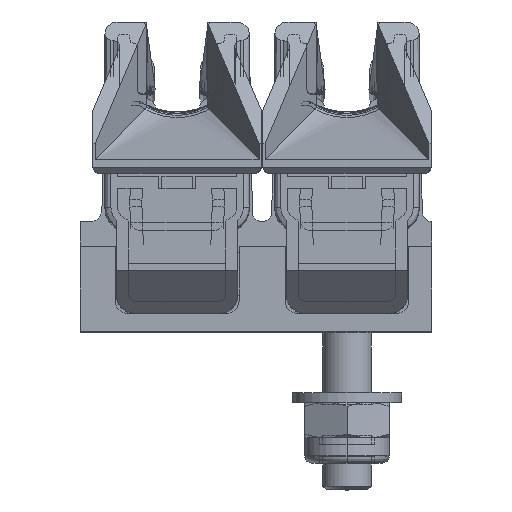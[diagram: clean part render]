
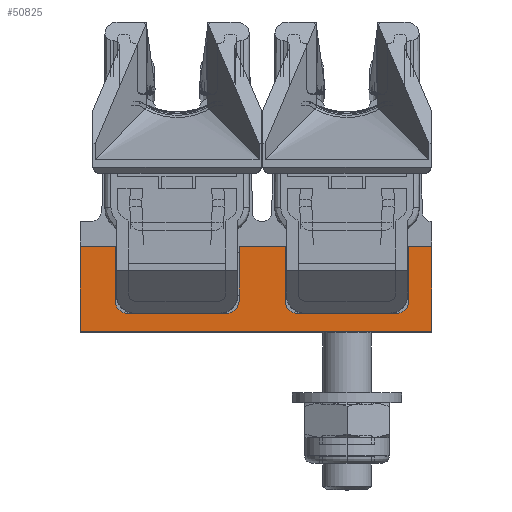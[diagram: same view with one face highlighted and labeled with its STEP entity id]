
A CAD part, top view. The second image highlights one B-rep face of the part: STEP entity #50825.
In plain terms, the highlighted planar face has unit normal (0, 0, 1).
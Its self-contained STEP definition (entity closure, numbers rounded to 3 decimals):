
#578 = EDGE_LOOP ( 'NONE', ( #29843, #29821, #29762, #29818, #29731, #29809, #29787, #29727, #29837, #29795, #29829, #29698, #29851, #29849, #29857, #29788 ) ) ;
#1311 = CARTESIAN_POINT ( 'NONE',  ( -12.1, -2.15, 2003.8 ) ) ;
#1312 = CARTESIAN_POINT ( 'NONE',  ( -11.1, -3.15, 2003.8 ) ) ;
#1313 = CARTESIAN_POINT ( 'NONE',  ( 14., 2.35, 2003.8 ) ) ;
#1317 = CARTESIAN_POINT ( 'NONE',  ( -1.9, -2.15, 2003.8 ) ) ;
#1340 = CARTESIAN_POINT ( 'NONE',  ( -2.9, -3.15, 2003.8 ) ) ;
#1341 = CARTESIAN_POINT ( 'NONE',  ( 12.1, 2.35, 2003.8 ) ) ;
#1342 = CARTESIAN_POINT ( 'NONE',  ( 12.1, -2.15, 2003.8 ) ) ;
#1343 = CARTESIAN_POINT ( 'NONE',  ( 11.1, -3.15, 2003.8 ) ) ;
#1344 = CARTESIAN_POINT ( 'NONE',  ( 2.9, -3.15, 2003.8 ) ) ;
#1345 = CARTESIAN_POINT ( 'NONE',  ( 1.9, -2.15, 2003.8 ) ) ;
#1346 = CARTESIAN_POINT ( 'NONE',  ( 1.9, 2.35, 2003.8 ) ) ;
#1347 = CARTESIAN_POINT ( 'NONE',  ( -1.9, 2.35, 2003.8 ) ) ;
#1348 = CARTESIAN_POINT ( 'NONE',  ( -12.1, 2.35, 2003.8 ) ) ;
#1349 = CARTESIAN_POINT ( 'NONE',  ( -15., 2.35, 2003.8 ) ) ;
#3438 = EDGE_CURVE ( 'NONE', #32444, #32445, #39092, .T. ) ;
#3440 = EDGE_CURVE ( 'NONE', #32443, #32420, #39098, .T. ) ;
#3446 = EDGE_CURVE ( 'NONE', #32416, #32444, #39105, .T. ) ;
#3459 = EDGE_CURVE ( 'NONE', #32448, #32449, #39127, .T. ) ;
#3473 = EDGE_CURVE ( 'NONE', #32414, #32415, #39152, .T. ) ;
#3499 = EDGE_CURVE ( 'NONE', #32446, #32447, #39195, .T. ) ;
#3501 = EDGE_CURVE ( 'NONE', #32449, #32450, #39198, .T. ) ;
#3559 = EDGE_CURVE ( 'NONE', #32451, #32414, #39288, .T. ) ;
#3567 = EDGE_CURVE ( 'NONE', #32452, #32451, #39300, .T. ) ;
#3583 = EDGE_CURVE ( 'NONE', #32415, #32443, #39329, .T. ) ;
#3590 = EDGE_CURVE ( 'NONE', #35469, #44333, #39338, .T. ) ;
#3608 = EDGE_CURVE ( 'NONE', #35469, #32452, #39372, .T. ) ;
#3614 = EDGE_CURVE ( 'NONE', #32416, #44333, #39378, .T. ) ;
#3632 = EDGE_CURVE ( 'NONE', #32447, #32448, #39410, .T. ) ;
#3642 = EDGE_CURVE ( 'NONE', #32445, #32446, #39427, .T. ) ;
#3653 = EDGE_CURVE ( 'NONE', #32420, #32450, #39448, .T. ) ;
#8197 = CARTESIAN_POINT ( 'NONE',  ( -15., -4.65, 2003.8 ) ) ;
#8219 = CARTESIAN_POINT ( 'NONE',  ( 14., -4.65, 2003.8 ) ) ;
#12977 = AXIS2_PLACEMENT_3D ( 'NONE', #19089, #19090, #19092 ) ;
#17027 = AXIS2_PLACEMENT_3D ( 'NONE', #40926, #40927, #40928 ) ;
#17037 = AXIS2_PLACEMENT_3D ( 'NONE', #40998, #40999, #41000 ) ;
#17087 = AXIS2_PLACEMENT_3D ( 'NONE', #41382, #41383, #41384 ) ;
#17090 = AXIS2_PLACEMENT_3D ( 'NONE', #41407, #41408, #41409 ) ;
#19078 = PLANE ( 'NONE',  #12977 ) ;
#19089 = CARTESIAN_POINT ( 'NONE',  ( 81.1, -2.15, 2003.8 ) ) ;
#19090 = DIRECTION ( 'NONE',  ( 0., 0., -1. ) ) ;
#19092 = DIRECTION ( 'NONE',  ( 1., 0., 0. ) ) ;
#20279 = FACE_OUTER_BOUND ( 'NONE', #578, .T. ) ;
#29698 = ORIENTED_EDGE ( 'NONE', *, *, #3473, .F. ) ;
#29727 = ORIENTED_EDGE ( 'NONE', *, *, #3501, .T. ) ;
#29731 = ORIENTED_EDGE ( 'NONE', *, *, #3499, .T. ) ;
#29762 = ORIENTED_EDGE ( 'NONE', *, *, #3438, .T. ) ;
#29787 = ORIENTED_EDGE ( 'NONE', *, *, #3459, .T. ) ;
#29788 = ORIENTED_EDGE ( 'NONE', *, *, #3590, .T. ) ;
#29795 = ORIENTED_EDGE ( 'NONE', *, *, #3440, .F. ) ;
#29809 = ORIENTED_EDGE ( 'NONE', *, *, #3632, .T. ) ;
#29818 = ORIENTED_EDGE ( 'NONE', *, *, #3642, .T. ) ;
#29821 = ORIENTED_EDGE ( 'NONE', *, *, #3446, .T. ) ;
#29829 = ORIENTED_EDGE ( 'NONE', *, *, #3583, .F. ) ;
#29837 = ORIENTED_EDGE ( 'NONE', *, *, #3653, .F. ) ;
#29843 = ORIENTED_EDGE ( 'NONE', *, *, #3614, .F. ) ;
#29849 = ORIENTED_EDGE ( 'NONE', *, *, #3567, .F. ) ;
#29851 = ORIENTED_EDGE ( 'NONE', *, *, #3559, .F. ) ;
#29857 = ORIENTED_EDGE ( 'NONE', *, *, #3608, .F. ) ;
#32414 = VERTEX_POINT ( 'NONE', #1311 ) ;
#32415 = VERTEX_POINT ( 'NONE', #1312 ) ;
#32416 = VERTEX_POINT ( 'NONE', #1313 ) ;
#32420 = VERTEX_POINT ( 'NONE', #1317 ) ;
#32443 = VERTEX_POINT ( 'NONE', #1340 ) ;
#32444 = VERTEX_POINT ( 'NONE', #1341 ) ;
#32445 = VERTEX_POINT ( 'NONE', #1342 ) ;
#32446 = VERTEX_POINT ( 'NONE', #1343 ) ;
#32447 = VERTEX_POINT ( 'NONE', #1344 ) ;
#32448 = VERTEX_POINT ( 'NONE', #1345 ) ;
#32449 = VERTEX_POINT ( 'NONE', #1346 ) ;
#32450 = VERTEX_POINT ( 'NONE', #1347 ) ;
#32451 = VERTEX_POINT ( 'NONE', #1348 ) ;
#32452 = VERTEX_POINT ( 'NONE', #1349 ) ;
#35469 = VERTEX_POINT ( 'NONE', #8197 ) ;
#39092 = LINE ( 'NONE', #40916, #39097 ) ;
#39097 = VECTOR ( 'NONE', #40920, 1000. ) ;
#39098 = CIRCLE ( 'NONE', #17027, 1. ) ;
#39105 = LINE ( 'NONE', #40931, #39110 ) ;
#39110 = VECTOR ( 'NONE', #40936, 1000. ) ;
#39127 = LINE ( 'NONE', #40962, #39132 ) ;
#39132 = VECTOR ( 'NONE', #40958, 1000. ) ;
#39152 = CIRCLE ( 'NONE', #17037, 1. ) ;
#39195 = LINE ( 'NONE', #41052, #39197 ) ;
#39197 = VECTOR ( 'NONE', #41053, 1000. ) ;
#39198 = LINE ( 'NONE', #41057, #39200 ) ;
#39200 = VECTOR ( 'NONE', #41058, 1000. ) ;
#39288 = LINE ( 'NONE', #41216, #39291 ) ;
#39291 = VECTOR ( 'NONE', #41217, 1000. ) ;
#39300 = LINE ( 'NONE', #41229, #39306 ) ;
#39306 = VECTOR ( 'NONE', #41226, 1000. ) ;
#39329 = LINE ( 'NONE', #41266, #39333 ) ;
#39333 = VECTOR ( 'NONE', #41265, 1000. ) ;
#39338 = LINE ( 'NONE', #41282, #39342 ) ;
#39342 = VECTOR ( 'NONE', #41280, 1000. ) ;
#39372 = LINE ( 'NONE', #41317, #39374 ) ;
#39374 = VECTOR ( 'NONE', #41318, 1000. ) ;
#39378 = LINE ( 'NONE', #41329, #39385 ) ;
#39385 = VECTOR ( 'NONE', #41337, 1000. ) ;
#39410 = CIRCLE ( 'NONE', #17087, 1. ) ;
#39427 = CIRCLE ( 'NONE', #17090, 1. ) ;
#39448 = LINE ( 'NONE', #41426, #39451 ) ;
#39451 = VECTOR ( 'NONE', #41427, 1000. ) ;
#40916 = CARTESIAN_POINT ( 'NONE',  ( 12.1, 2.35, 2003.8 ) ) ;
#40920 = DIRECTION ( 'NONE',  ( 0., -1., 0. ) ) ;
#40926 = CARTESIAN_POINT ( 'NONE',  ( -2.9, -2.15, 2003.8 ) ) ;
#40927 = DIRECTION ( 'NONE',  ( 0., 0., 1. ) ) ;
#40928 = DIRECTION ( 'NONE',  ( -1., 0., 0. ) ) ;
#40931 = CARTESIAN_POINT ( 'NONE',  ( 14., 2.35, 2003.8 ) ) ;
#40936 = DIRECTION ( 'NONE',  ( -1., 0., 0. ) ) ;
#40958 = DIRECTION ( 'NONE',  ( 0., 1., 0. ) ) ;
#40962 = CARTESIAN_POINT ( 'NONE',  ( 1.9, 2.35, 2003.8 ) ) ;
#40998 = CARTESIAN_POINT ( 'NONE',  ( -11.1, -2.15, 2003.8 ) ) ;
#40999 = DIRECTION ( 'NONE',  ( 0., 0., 1. ) ) ;
#41000 = DIRECTION ( 'NONE',  ( -1., 0., 0. ) ) ;
#41052 = CARTESIAN_POINT ( 'NONE',  ( 2.9, -3.15, 2003.8 ) ) ;
#41053 = DIRECTION ( 'NONE',  ( -1., 0., 0. ) ) ;
#41057 = CARTESIAN_POINT ( 'NONE',  ( 0., 2.35, 2003.8 ) ) ;
#41058 = DIRECTION ( 'NONE',  ( -1., 0., 0. ) ) ;
#41216 = CARTESIAN_POINT ( 'NONE',  ( -12.1, 2.35, 2003.8 ) ) ;
#41217 = DIRECTION ( 'NONE',  ( 0., -1., 0. ) ) ;
#41226 = DIRECTION ( 'NONE',  ( 1., 0., 0. ) ) ;
#41229 = CARTESIAN_POINT ( 'NONE',  ( -15., 2.35, 2003.8 ) ) ;
#41265 = DIRECTION ( 'NONE',  ( 1., 0., 0. ) ) ;
#41266 = CARTESIAN_POINT ( 'NONE',  ( -11.1, -3.15, 2003.8 ) ) ;
#41280 = DIRECTION ( 'NONE',  ( 1., 0., 0. ) ) ;
#41282 = CARTESIAN_POINT ( 'NONE',  ( 70., -4.65, 2003.8 ) ) ;
#41317 = CARTESIAN_POINT ( 'NONE',  ( -15., -4.65, 2003.8 ) ) ;
#41318 = DIRECTION ( 'NONE',  ( 0., 1., 0. ) ) ;
#41329 = CARTESIAN_POINT ( 'NONE',  ( 14., -4.65, 2003.8 ) ) ;
#41337 = DIRECTION ( 'NONE',  ( 0., -1., 0. ) ) ;
#41382 = CARTESIAN_POINT ( 'NONE',  ( 2.9, -2.15, 2003.8 ) ) ;
#41383 = DIRECTION ( 'NONE',  ( 0., 0., -1. ) ) ;
#41384 = DIRECTION ( 'NONE',  ( -1., 0., 0. ) ) ;
#41407 = CARTESIAN_POINT ( 'NONE',  ( 11.1, -2.15, 2003.8 ) ) ;
#41408 = DIRECTION ( 'NONE',  ( 0., 0., -1. ) ) ;
#41409 = DIRECTION ( 'NONE',  ( 1., 0., 0. ) ) ;
#41426 = CARTESIAN_POINT ( 'NONE',  ( -1.9, -2.15, 2003.8 ) ) ;
#41427 = DIRECTION ( 'NONE',  ( 0., 1., 0. ) ) ;
#44333 = VERTEX_POINT ( 'NONE', #8219 ) ;
#50825 = ADVANCED_FACE ( 'NONE', ( #20279 ), #19078, .F. ) ;
